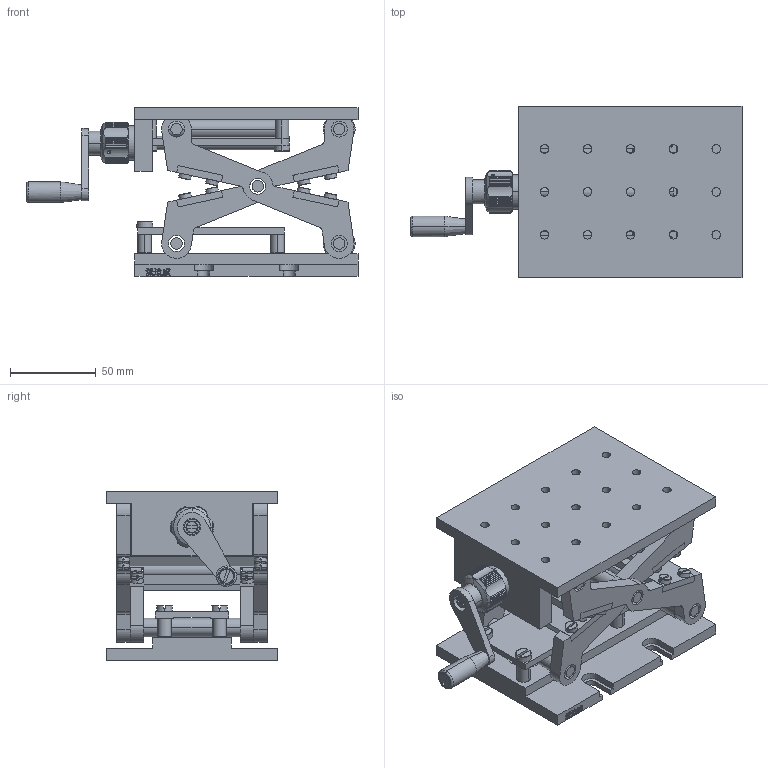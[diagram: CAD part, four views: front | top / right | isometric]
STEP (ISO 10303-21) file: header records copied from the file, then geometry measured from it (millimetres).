
FILE_DESCRIPTION (( 'STEP AP214' ), '1' );
FILE_NAME ('PT-SD1702M.STEP', '2022-09-11T09:38:04', ( '' ), ( '' ), 'SwSTEP 2.0', 'SolidWorks 2017', '' );
FILE_SCHEMA (( 'AUTOMOTIVE_DESIGN' ));
Length unit declared in the file: millimetre
Products named in the file (5): PT-SD1701M-2; PT-SD1701M-3; PT-SD1702M; PT-SD1702M-菁釱; PT-SD1702M-奻裔
Assembly tree (4 placements, depth 2):
  PT-SD1702M
    PT-SD1702M-菁釱
    PT-SD1701M-2
    PT-SD1702M-奻裔
    PT-SD1701M-3
Bounding box: 193.5 x 100 x 98.03 mm (x, y, z)
Volume: 122633 mm3; surface area: 158335.7 mm2
Topology: 1 solids, 92 shells, 1064 faces, 3173 edges, 2222 vertices
Faces by surface type: plane 491, cylinder 297, bspline 194, cone 82
Entity records: 50444 total; most frequent: CARTESIAN_POINT 23351, ORIENTED_EDGE 5726, DIRECTION 4807, EDGE_CURVE 3173, VERTEX_POINT 2222, LINE 1617, VECTOR 1617, AXIS2_PLACEMENT_3D 1595
